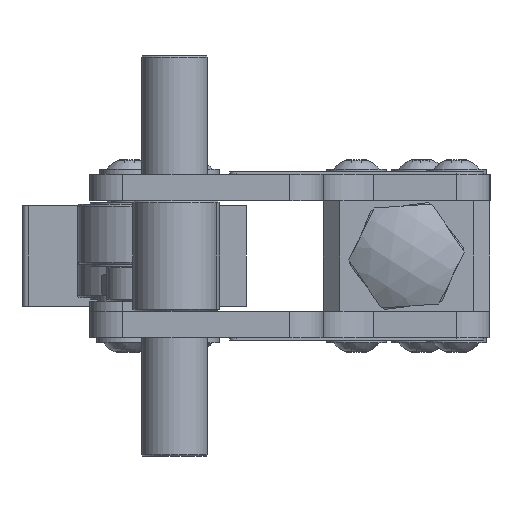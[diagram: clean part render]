
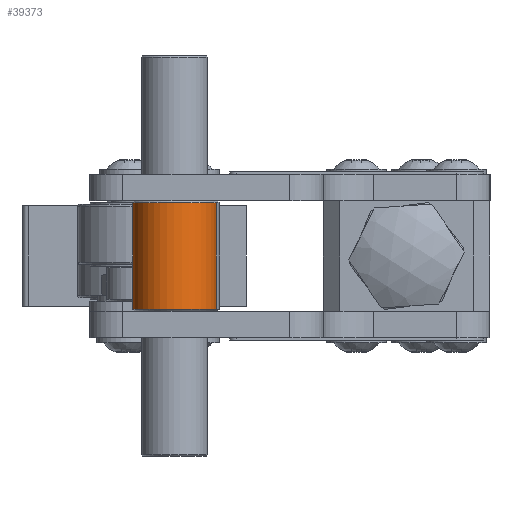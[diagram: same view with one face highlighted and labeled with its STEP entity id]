
A CAD part, left-side view. The second image highlights one B-rep face of the part: STEP entity #39373.
In plain terms, the highlighted cylindrical face has radius 12.5 mm (diameter 25 mm), a full revolution.
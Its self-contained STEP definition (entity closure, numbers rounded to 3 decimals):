
#2387=FACE_BOUND('',#6794,.T.);
#4427=FACE_OUTER_BOUND('',#6793,.T.);
#6793=EDGE_LOOP('',(#28975));
#6794=EDGE_LOOP('',(#28976));
#17516=CIRCLE('',#41824,12.5);
#17518=CIRCLE('',#41827,12.5);
#18180=VERTEX_POINT('',#53826);
#18182=VERTEX_POINT('',#53831);
#22328=EDGE_CURVE('',#18180,#18180,#17516,.T.);
#22330=EDGE_CURVE('',#18182,#18182,#17518,.T.);
#28975=ORIENTED_EDGE('',*,*,#22330,.F.);
#28976=ORIENTED_EDGE('',*,*,#22328,.F.);
#38971=CYLINDRICAL_SURFACE('',#41826,12.5);
#39373=ADVANCED_FACE('',(#4427,#2387),#38971,.T.);
#41824=AXIS2_PLACEMENT_3D('',#53827,#44886,#44887);
#41826=AXIS2_PLACEMENT_3D('',#53830,#44890,#44891);
#41827=AXIS2_PLACEMENT_3D('',#53832,#44892,#44893);
#44886=DIRECTION('center_axis',(0.,0.,-1.));
#44887=DIRECTION('ref_axis',(-1.,0.,0.));
#44890=DIRECTION('center_axis',(0.,0.,1.));
#44891=DIRECTION('ref_axis',(-1.,0.,0.));
#44892=DIRECTION('center_axis',(0.,0.,1.));
#44893=DIRECTION('ref_axis',(-1.,0.,0.));
#53826=CARTESIAN_POINT('',(12.5,0.,-16.));
#53827=CARTESIAN_POINT('Origin',(0.,0.,-16.));
#53830=CARTESIAN_POINT('Origin',(0.,0.,0.));
#53831=CARTESIAN_POINT('',(12.5,0.,16.));
#53832=CARTESIAN_POINT('Origin',(0.,0.,16.));
